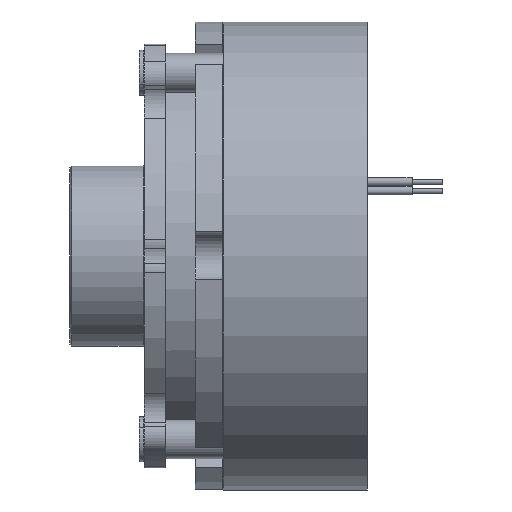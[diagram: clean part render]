
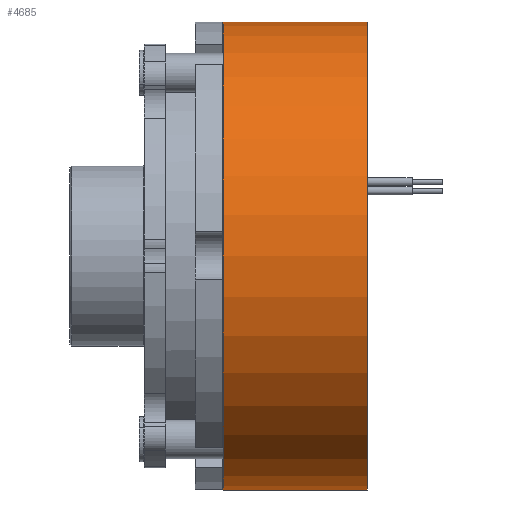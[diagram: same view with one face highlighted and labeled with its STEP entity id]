
A CAD part, front view. The second image highlights one B-rep face of the part: STEP entity #4685.
In plain terms, the highlighted cylindrical face has radius 39 mm (diameter 78 mm), a partial arc.
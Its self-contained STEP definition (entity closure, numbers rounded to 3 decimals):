
#165 = AXIS2_PLACEMENT_3D ( 'NONE', #2910, #3620, #3127 ) ;
#206 = CARTESIAN_POINT ( 'NONE',  ( 0., 0., 0. ) ) ;
#223 = VECTOR ( 'NONE', #1470, 1000. ) ;
#246 = DIRECTION ( 'NONE',  ( 0., 0., 1. ) ) ;
#268 = LINE ( 'NONE', #4582, #223 ) ;
#539 = AXIS2_PLACEMENT_3D ( 'NONE', #861, #1459, #1708 ) ;
#543 = CARTESIAN_POINT ( 'NONE',  ( 0., 0., -39. ) ) ;
#861 = CARTESIAN_POINT ( 'NONE',  ( 24., 0., 0. ) ) ;
#1296 = EDGE_LOOP ( 'NONE', ( #4086, #2498, #4018, #3609 ) ) ;
#1459 = DIRECTION ( 'NONE',  ( -1., 0., 0. ) ) ;
#1470 = DIRECTION ( 'NONE',  ( -1., 0., 0. ) ) ;
#1499 = LINE ( 'NONE', #2292, #4804 ) ;
#1708 = DIRECTION ( 'NONE',  ( 0., 0., 1. ) ) ;
#1734 = DIRECTION ( 'NONE',  ( -1., 0., 0. ) ) ;
#1921 = EDGE_CURVE ( 'NONE', #2290, #1932, #268, .T. ) ;
#1932 = VERTEX_POINT ( 'NONE', #543 ) ;
#1965 = CARTESIAN_POINT ( 'NONE',  ( 24., 0., -39. ) ) ;
#2290 = VERTEX_POINT ( 'NONE', #1965 ) ;
#2292 = CARTESIAN_POINT ( 'NONE',  ( 0., 0., 39. ) ) ;
#2381 = AXIS2_PLACEMENT_3D ( 'NONE', #206, #1734, #246 ) ;
#2446 = CIRCLE ( 'NONE', #2381, 39. ) ;
#2498 = ORIENTED_EDGE ( 'NONE', *, *, #3207, .T. ) ;
#2569 = EDGE_CURVE ( 'NONE', #3417, #5066, #1499, .T. ) ;
#2760 = CIRCLE ( 'NONE', #539, 39. ) ;
#2910 = CARTESIAN_POINT ( 'NONE',  ( 0., 0., 0. ) ) ;
#3127 = DIRECTION ( 'NONE',  ( 0., 0., 1. ) ) ;
#3207 = EDGE_CURVE ( 'NONE', #2290, #3417, #2760, .T. ) ;
#3236 = CARTESIAN_POINT ( 'NONE',  ( 24., 0., 39. ) ) ;
#3374 = EDGE_CURVE ( 'NONE', #1932, #5066, #2446, .T. ) ;
#3417 = VERTEX_POINT ( 'NONE', #3236 ) ;
#3449 = CARTESIAN_POINT ( 'NONE',  ( 0., 0., 39. ) ) ;
#3609 = ORIENTED_EDGE ( 'NONE', *, *, #3374, .F. ) ;
#3620 = DIRECTION ( 'NONE',  ( -1., 0., 0. ) ) ;
#4018 = ORIENTED_EDGE ( 'NONE', *, *, #2569, .T. ) ;
#4086 = ORIENTED_EDGE ( 'NONE', *, *, #1921, .F. ) ;
#4187 = FACE_OUTER_BOUND ( 'NONE', #1296, .T. ) ;
#4486 = CYLINDRICAL_SURFACE ( 'NONE', #165, 39. ) ;
#4582 = CARTESIAN_POINT ( 'NONE',  ( 0., 0., -39. ) ) ;
#4685 = ADVANCED_FACE ( 'NONE', ( #4187 ), #4486, .T. ) ;
#4804 = VECTOR ( 'NONE', #4870, 1000. ) ;
#4870 = DIRECTION ( 'NONE',  ( -1., 0., 0. ) ) ;
#5066 = VERTEX_POINT ( 'NONE', #3449 ) ;
